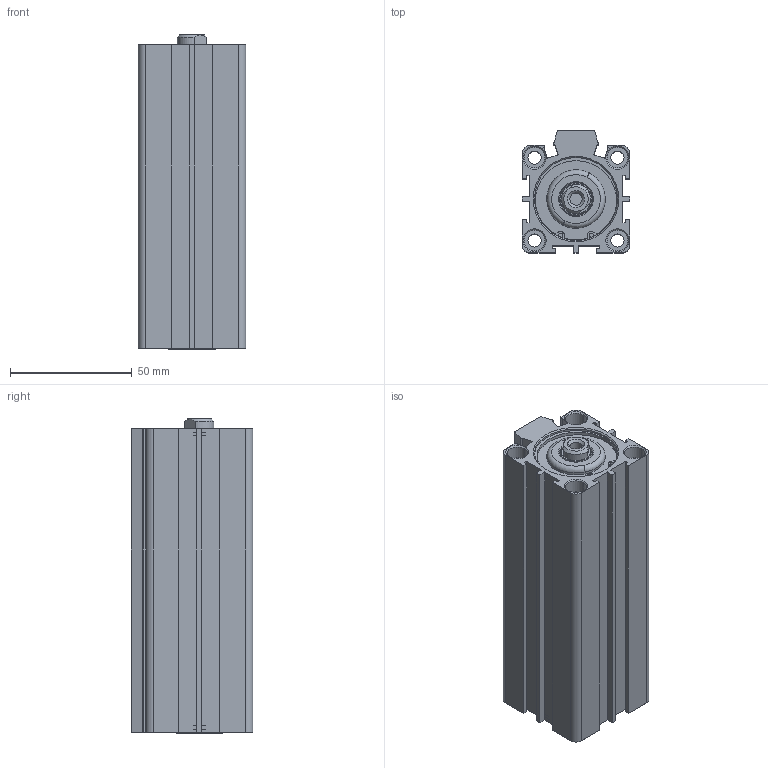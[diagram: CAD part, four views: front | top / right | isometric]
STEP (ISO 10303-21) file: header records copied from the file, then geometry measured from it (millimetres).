
FILE_DESCRIPTION (( 'STEP AP214' ), '1' );
FILE_NAME ('SDA_32_90_WEB.STEP', '2021-01-22T11:33:11', ( 'cagdas' ), ( '' ), 'SwSTEP 2.0', 'SolidWorks 2021', '' );
FILE_SCHEMA (( 'AUTOMOTIVE_DESIGN' ));
Length unit declared in the file: millimetre
Products named in the file (7): 20_MIL_WEB; SDA_32_90_WEB; KASTAS-K52-12X16_5X3_6-4_8; SDA32ARKKAPAK; SDA32ONKAPAKDINCPLASTIK; SDA32_BORU_WEB; basic internal retaining ring_am_B27.7M - 3BM1-36
Assembly tree (7 placements, depth 2):
  SDA_32_90_WEB
    SDA32_BORU_WEB
    SDA32ONKAPAKDINCPLASTIK
    KASTAS-K52-12X16_5X3_6-4_8
    SDA32ARKKAPAK
    20_MIL_WEB
    basic internal retaining ring_am_B27.7M - 3BM1-36  x2
Bounding box: 44 x 50 x 128.85 mm (x, y, z)
Volume: 127757.5 mm3; surface area: 65945.7 mm2
Topology: 7 solids, 7 shells, 467 faces, 1165 edges, 750 vertices
Faces by surface type: plane 178, cylinder 124, bspline 85, cone 76, torus 4
Entity records: 19570 total; most frequent: CARTESIAN_POINT 7109, ORIENTED_EDGE 2228, DIRECTION 1994, EDGE_CURVE 1114, VERTEX_POINT 716, AXIS2_PLACEMENT_3D 687, VECTOR 620, LINE 620
